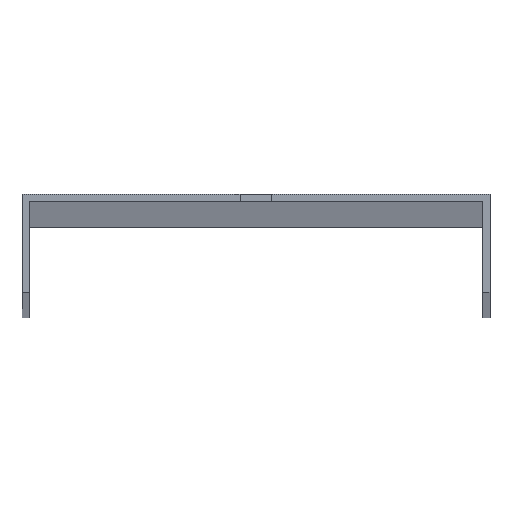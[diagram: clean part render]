
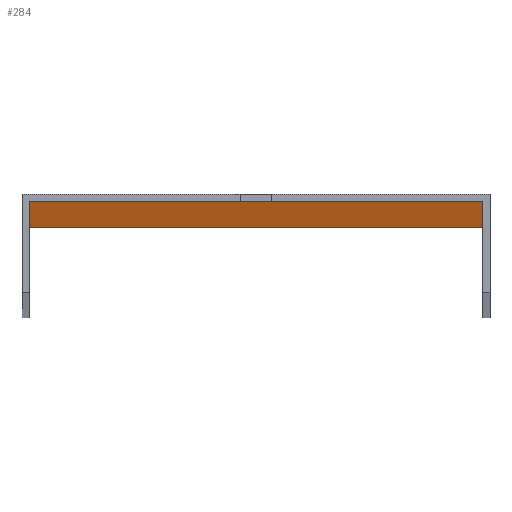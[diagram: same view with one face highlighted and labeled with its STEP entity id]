
A CAD part, top view. The second image highlights one B-rep face of the part: STEP entity #284.
In plain terms, the highlighted planar face has unit normal (0, -1, 0).
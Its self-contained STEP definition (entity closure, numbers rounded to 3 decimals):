
#12 = ORIENTED_EDGE ( 'NONE', *, *, #373, .F. ) ;
#22 = ORIENTED_EDGE ( 'NONE', *, *, #587, .F. ) ;
#24 = LINE ( 'NONE', #167, #381 ) ;
#45 = VERTEX_POINT ( 'NONE', #515 ) ;
#57 = VECTOR ( 'NONE', #250, 1000. ) ;
#61 = LINE ( 'NONE', #245, #83 ) ;
#64 = CARTESIAN_POINT ( 'NONE',  ( -47.75, -1.5, 1500. ) ) ;
#83 = VECTOR ( 'NONE', #233, 1000. ) ;
#86 = CARTESIAN_POINT ( 'NONE',  ( 3.25, -1.5, 1500. ) ) ;
#87 = VERTEX_POINT ( 'NONE', #208 ) ;
#89 = CARTESIAN_POINT ( 'NONE',  ( -47.75, -1.5, -1500. ) ) ;
#94 = CARTESIAN_POINT ( 'NONE',  ( -3.25, -1.5, 1479. ) ) ;
#98 = LINE ( 'NONE', #465, #136 ) ;
#107 = CARTESIAN_POINT ( 'NONE',  ( 46.25, -1.5, -1500. ) ) ;
#109 = VERTEX_POINT ( 'NONE', #107 ) ;
#118 = DIRECTION ( 'NONE',  ( -1., 0., 0. ) ) ;
#127 = ORIENTED_EDGE ( 'NONE', *, *, #319, .T. ) ;
#131 = DIRECTION ( 'NONE',  ( 1., 0., 0. ) ) ;
#136 = VECTOR ( 'NONE', #370, 1000. ) ;
#138 = ORIENTED_EDGE ( 'NONE', *, *, #230, .F. ) ;
#139 = EDGE_CURVE ( 'NONE', #155, #45, #286, .T. ) ;
#146 = ORIENTED_EDGE ( 'NONE', *, *, #251, .F. ) ;
#152 = VERTEX_POINT ( 'NONE', #94 ) ;
#155 = VERTEX_POINT ( 'NONE', #329 ) ;
#157 = FACE_OUTER_BOUND ( 'NONE', #287, .T. ) ;
#166 = CARTESIAN_POINT ( 'NONE',  ( 46.25, -1.5, 1500. ) ) ;
#167 = CARTESIAN_POINT ( 'NONE',  ( -47.75, -1.5, 1488. ) ) ;
#181 = DIRECTION ( 'NONE',  ( 0., 0., -1. ) ) ;
#192 = DIRECTION ( 'NONE',  ( 0., 0., -1. ) ) ;
#201 = VERTEX_POINT ( 'NONE', #372 ) ;
#205 = CARTESIAN_POINT ( 'NONE',  ( 46.25, -1.5, 1500. ) ) ;
#208 = CARTESIAN_POINT ( 'NONE',  ( 3.25, -1.5, -1479. ) ) ;
#210 = DIRECTION ( 'NONE',  ( 0., -1., 0. ) ) ;
#211 = VERTEX_POINT ( 'NONE', #377 ) ;
#227 = ORIENTED_EDGE ( 'NONE', *, *, #317, .T. ) ;
#230 = EDGE_CURVE ( 'NONE', #456, #152, #331, .T. ) ;
#233 = DIRECTION ( 'NONE',  ( 0., 0., 1. ) ) ;
#235 = ORIENTED_EDGE ( 'NONE', *, *, #481, .T. ) ;
#236 = EDGE_CURVE ( 'NONE', #567, #444, #98, .T. ) ;
#242 = VERTEX_POINT ( 'NONE', #289 ) ;
#245 = CARTESIAN_POINT ( 'NONE',  ( 3.25, -1.5, 1500. ) ) ;
#250 = DIRECTION ( 'NONE',  ( -1., 0., 0. ) ) ;
#251 = EDGE_CURVE ( 'NONE', #211, #201, #61, .T. ) ;
#267 = ORIENTED_EDGE ( 'NONE', *, *, #236, .T. ) ;
#276 = CARTESIAN_POINT ( 'NONE',  ( -3.25, -1.5, 1488. ) ) ;
#283 = VECTOR ( 'NONE', #540, 1000. ) ;
#284 = ADVANCED_FACE ( 'NONE', ( #485, #157, #570 ), #347, .T. ) ;
#286 = LINE ( 'NONE', #327, #369 ) ;
#287 = EDGE_LOOP ( 'NONE', ( #12, #22, #227, #544 ) ) ;
#289 = CARTESIAN_POINT ( 'NONE',  ( 3.25, -1.5, -1488. ) ) ;
#317 = EDGE_CURVE ( 'NONE', #407, #155, #482, .T. ) ;
#319 = EDGE_CURVE ( 'NONE', #242, #567, #492, .T. ) ;
#327 = CARTESIAN_POINT ( 'NONE',  ( -46.25, -1.5, 1500. ) ) ;
#329 = CARTESIAN_POINT ( 'NONE',  ( -46.25, -1.5, 1500. ) ) ;
#331 = LINE ( 'NONE', #518, #516 ) ;
#343 = EDGE_CURVE ( 'NONE', #201, #456, #24, .T. ) ;
#344 = CARTESIAN_POINT ( 'NONE',  ( -47.75, -1.5, 1500. ) ) ;
#347 = PLANE ( 'NONE',  #546 ) ;
#355 = VECTOR ( 'NONE', #569, 1000. ) ;
#357 = CARTESIAN_POINT ( 'NONE',  ( -47.75, -1.5, -1488. ) ) ;
#358 = EDGE_LOOP ( 'NONE', ( #138, #532, #146, #493 ) ) ;
#359 = EDGE_CURVE ( 'NONE', #152, #211, #534, .T. ) ;
#360 = CARTESIAN_POINT ( 'NONE',  ( -47.75, -1.5, 1479. ) ) ;
#362 = LINE ( 'NONE', #86, #431 ) ;
#369 = VECTOR ( 'NONE', #462, 1000. ) ;
#370 = DIRECTION ( 'NONE',  ( 0., 0., 1. ) ) ;
#372 = CARTESIAN_POINT ( 'NONE',  ( 3.25, -1.5, 1488. ) ) ;
#373 = EDGE_CURVE ( 'NONE', #109, #45, #452, .T. ) ;
#377 = CARTESIAN_POINT ( 'NONE',  ( 3.25, -1.5, 1479. ) ) ;
#379 = LINE ( 'NONE', #205, #355 ) ;
#381 = VECTOR ( 'NONE', #118, 1000. ) ;
#383 = EDGE_CURVE ( 'NONE', #87, #242, #362, .T. ) ;
#388 = CARTESIAN_POINT ( 'NONE',  ( -3.25, -1.5, -1488. ) ) ;
#404 = CARTESIAN_POINT ( 'NONE',  ( -3.25, -1.5, -1479. ) ) ;
#406 = LINE ( 'NONE', #542, #464 ) ;
#407 = VERTEX_POINT ( 'NONE', #166 ) ;
#431 = VECTOR ( 'NONE', #181, 1000. ) ;
#432 = EDGE_LOOP ( 'NONE', ( #127, #267, #235, #514 ) ) ;
#444 = VERTEX_POINT ( 'NONE', #404 ) ;
#450 = DIRECTION ( 'NONE',  ( -1., 0., 0. ) ) ;
#452 = LINE ( 'NONE', #89, #461 ) ;
#456 = VERTEX_POINT ( 'NONE', #276 ) ;
#461 = VECTOR ( 'NONE', #450, 1000. ) ;
#462 = DIRECTION ( 'NONE',  ( 0., 0., -1. ) ) ;
#464 = VECTOR ( 'NONE', #131, 1000. ) ;
#465 = CARTESIAN_POINT ( 'NONE',  ( -3.25, -1.5, 1500. ) ) ;
#471 = VECTOR ( 'NONE', #476, 1000. ) ;
#476 = DIRECTION ( 'NONE',  ( -1., 0., 0. ) ) ;
#481 = EDGE_CURVE ( 'NONE', #444, #87, #406, .T. ) ;
#482 = LINE ( 'NONE', #344, #57 ) ;
#485 = FACE_BOUND ( 'NONE', #358, .T. ) ;
#492 = LINE ( 'NONE', #357, #471 ) ;
#493 = ORIENTED_EDGE ( 'NONE', *, *, #359, .F. ) ;
#514 = ORIENTED_EDGE ( 'NONE', *, *, #383, .T. ) ;
#515 = CARTESIAN_POINT ( 'NONE',  ( -46.25, -1.5, -1500. ) ) ;
#516 = VECTOR ( 'NONE', #192, 1000. ) ;
#518 = CARTESIAN_POINT ( 'NONE',  ( -3.25, -1.5, 1500. ) ) ;
#530 = DIRECTION ( 'NONE',  ( 0., 0., -1. ) ) ;
#532 = ORIENTED_EDGE ( 'NONE', *, *, #343, .F. ) ;
#534 = LINE ( 'NONE', #360, #283 ) ;
#540 = DIRECTION ( 'NONE',  ( 1., 0., 0. ) ) ;
#542 = CARTESIAN_POINT ( 'NONE',  ( -47.75, -1.5, -1479. ) ) ;
#544 = ORIENTED_EDGE ( 'NONE', *, *, #139, .T. ) ;
#546 = AXIS2_PLACEMENT_3D ( 'NONE', #64, #210, #530 ) ;
#567 = VERTEX_POINT ( 'NONE', #388 ) ;
#569 = DIRECTION ( 'NONE',  ( 0., 0., -1. ) ) ;
#570 = FACE_BOUND ( 'NONE', #432, .T. ) ;
#587 = EDGE_CURVE ( 'NONE', #407, #109, #379, .T. ) ;
